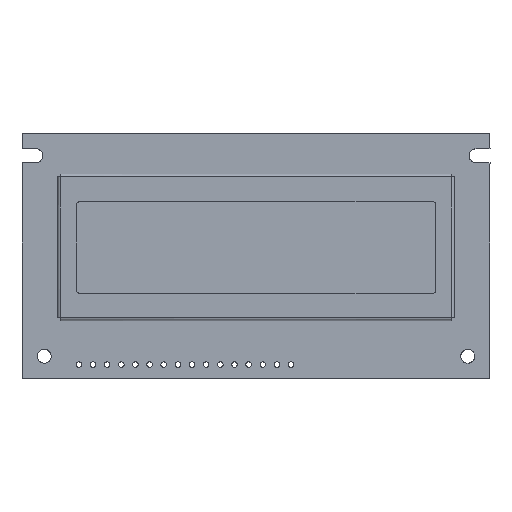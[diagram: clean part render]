
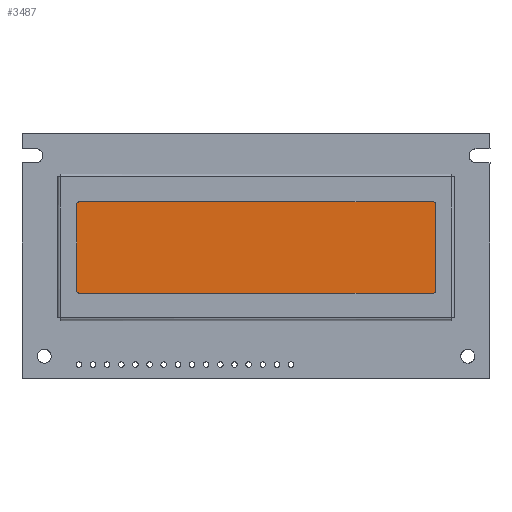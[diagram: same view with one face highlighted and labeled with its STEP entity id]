
A CAD part, top view. The second image highlights one B-rep face of the part: STEP entity #3487.
In plain terms, the highlighted free-form (B-spline) face has degree [1, 1] with [2, 2] control points.
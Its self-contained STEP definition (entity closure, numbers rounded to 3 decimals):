
#34 = CARTESIAN_POINT ( 'NONE',  ( 74.307, 15.533, 9.7 ) ) ;
#36 = CARTESIAN_POINT ( 'NONE',  ( 10.3, 31.7, 9.7 ) ) ;
#86 = EDGE_CURVE ( 'NONE', #3387, #3844, #1446, .T. ) ;
#240 = VERTEX_POINT ( 'NONE', #2118 ) ;
#281 = ORIENTED_EDGE ( 'NONE', *, *, #2906, .F. ) ;
#341 = CARTESIAN_POINT ( 'NONE',  ( 8.51, 32.028, 9.7 ) ) ;
#365 = CARTESIAN_POINT ( 'NONE',  ( 74.093, 31.7, 9.7 ) ) ;
#368 = CARTESIAN_POINT ( 'NONE',  ( 9.8, 31.493, 9.7 ) ) ;
#373 = CARTESIAN_POINT ( 'NONE',  ( 10.007, 15.3, 9.7 ) ) ;
#405 = CARTESIAN_POINT ( 'NONE',  ( 10.3, 15.3, 9.7 ) ) ;
#478 = EDGE_CURVE ( 'NONE', #1723, #2800, #3732, .T. ) ;
#484 = CARTESIAN_POINT ( 'NONE',  ( 74.3, 31.493, 9.7 ) ) ;
#487 = CARTESIAN_POINT ( 'NONE',  ( 9.8, 15.8, 9.7 ) ) ;
#580 = EDGE_CURVE ( 'NONE', #240, #1723, #1768, .T. ) ;
#584 = CARTESIAN_POINT ( 'NONE',  ( 10.3, 15.3, 9.7 ) ) ;
#666 = CARTESIAN_POINT ( 'NONE',  ( 75.59, 14.972, 9.7 ) ) ;
#724 = CARTESIAN_POINT ( 'NONE',  ( 74.3, 31.2, 9.7 ) ) ;
#744 = CARTESIAN_POINT ( 'NONE',  ( 9.8, 31.2, 9.7 ) ) ;
#782 = VERTEX_POINT ( 'NONE', #3363 ) ;
#960 = CARTESIAN_POINT ( 'NONE',  ( 74.3, 31.2, 9.7 ) ) ;
#973 = EDGE_LOOP ( 'NONE', ( #3450, #2985, #2561, #2103, #2629, #3196, #2491, #281 ) ) ;
#1013 = VERTEX_POINT ( 'NONE', #1773 ) ;
#1106 = CARTESIAN_POINT ( 'NONE',  ( 74.3, 15.8, 9.7 ) ) ;
#1223 = CARTESIAN_POINT ( 'NONE',  ( 8.51, 14.972, 9.7 ) ) ;
#1254 = CARTESIAN_POINT ( 'NONE',  ( 9.8, 15.507, 9.7 ) ) ;
#1288 = CARTESIAN_POINT ( 'NONE',  ( 74.3, 31.2, 9.7 ) ) ;
#1446 =( BOUNDED_CURVE ( )  B_SPLINE_CURVE ( 3, ( #584, #373, #1254, #2213 ),
 .UNSPECIFIED., .F., .F. ) 
 B_SPLINE_CURVE_WITH_KNOTS ( ( 4, 4 ),
 ( 0., 1.571 ),
 .UNSPECIFIED. ) 
 CURVE ( )  GEOMETRIC_REPRESENTATION_ITEM ( )  RATIONAL_B_SPLINE_CURVE ( ( 1., 0.805, 0.805, 1. ) ) 
 REPRESENTATION_ITEM ( '' )  );
#1452 = EDGE_CURVE ( 'NONE', #3387, #240, #1654, .T. ) ;
#1530 =( BOUNDED_CURVE ( )  B_SPLINE_CURVE ( 3, ( #2019, #365, #484, #724 ),
 .UNSPECIFIED., .F., .F. ) 
 B_SPLINE_CURVE_WITH_KNOTS ( ( 4, 4 ),
 ( 0., 1.571 ),
 .UNSPECIFIED. ) 
 CURVE ( )  GEOMETRIC_REPRESENTATION_ITEM ( )  RATIONAL_B_SPLINE_CURVE ( ( 1., 0.805, 0.805, 1. ) ) 
 REPRESENTATION_ITEM ( '' )  );
#1654 = B_SPLINE_CURVE_WITH_KNOTS ( 'NONE', 1,
 ( #405, #1742 ),
 .UNSPECIFIED., .F., .F.,
 ( 2, 2 ),
 ( 0., 1. ),
 .UNSPECIFIED. ) ;
#1723 = VERTEX_POINT ( 'NONE', #1106 ) ;
#1741 = B_SPLINE_CURVE_WITH_KNOTS ( 'NONE', 1,
 ( #2336, #2743 ),
 .UNSPECIFIED., .F., .F.,
 ( 2, 2 ),
 ( 0., 1. ),
 .UNSPECIFIED. ) ;
#1742 = CARTESIAN_POINT ( 'NONE',  ( 73.8, 15.3, 9.7 ) ) ;
#1767 = CARTESIAN_POINT ( 'NONE',  ( 73.8, 31.7, 9.7 ) ) ;
#1768 = B_SPLINE_CURVE_WITH_KNOTS ( 'NONE', 3,
 ( #3449, #4254, #34, #2358 ),
 .UNSPECIFIED., .F., .F.,
 ( 4, 4 ),
 ( 0., 1.571 ),
 .UNSPECIFIED. ) ;
#1773 = CARTESIAN_POINT ( 'NONE',  ( 9.8, 31.2, 9.7 ) ) ;
#2019 = CARTESIAN_POINT ( 'NONE',  ( 73.8, 31.7, 9.7 ) ) ;
#2036 = CARTESIAN_POINT ( 'NONE',  ( 10.007, 31.7, 9.7 ) ) ;
#2103 = ORIENTED_EDGE ( 'NONE', *, *, #580, .T. ) ;
#2118 = CARTESIAN_POINT ( 'NONE',  ( 73.8, 15.3, 9.7 ) ) ;
#2213 = CARTESIAN_POINT ( 'NONE',  ( 9.8, 15.8, 9.7 ) ) ;
#2224 = CARTESIAN_POINT ( 'NONE',  ( 10.3, 15.3, 9.7 ) ) ;
#2277 = EDGE_CURVE ( 'NONE', #2420, #2800, #1530, .T. ) ;
#2332 =( BOUNDED_CURVE ( )  B_SPLINE_CURVE ( 3, ( #3657, #368, #2036, #36 ),
 .UNSPECIFIED., .F., .T. ) 
 B_SPLINE_CURVE_WITH_KNOTS ( ( 4, 4 ),
 ( 0., 1.571 ),
 .UNSPECIFIED. ) 
 CURVE ( )  GEOMETRIC_REPRESENTATION_ITEM ( )  RATIONAL_B_SPLINE_CURVE ( ( 1., 0.805, 0.805, 1. ) ) 
 REPRESENTATION_ITEM ( '' )  );
#2336 = CARTESIAN_POINT ( 'NONE',  ( 73.8, 31.7, 9.7 ) ) ;
#2358 = CARTESIAN_POINT ( 'NONE',  ( 74.3, 15.8, 9.7 ) ) ;
#2420 = VERTEX_POINT ( 'NONE', #1767 ) ;
#2491 = ORIENTED_EDGE ( 'NONE', *, *, #4118, .T. ) ;
#2561 = ORIENTED_EDGE ( 'NONE', *, *, #1452, .T. ) ;
#2629 = ORIENTED_EDGE ( 'NONE', *, *, #478, .T. ) ;
#2743 = CARTESIAN_POINT ( 'NONE',  ( 10.3, 31.7, 9.7 ) ) ;
#2800 = VERTEX_POINT ( 'NONE', #1288 ) ;
#2906 = EDGE_CURVE ( 'NONE', #1013, #782, #2332, .T. ) ;
#2985 = ORIENTED_EDGE ( 'NONE', *, *, #86, .F. ) ;
#3128 = CARTESIAN_POINT ( 'NONE',  ( 9.8, 15.8, 9.7 ) ) ;
#3196 = ORIENTED_EDGE ( 'NONE', *, *, #2277, .F. ) ;
#3363 = CARTESIAN_POINT ( 'NONE',  ( 10.3, 31.7, 9.7 ) ) ;
#3387 = VERTEX_POINT ( 'NONE', #2224 ) ;
#3449 = CARTESIAN_POINT ( 'NONE',  ( 73.8, 15.3, 9.7 ) ) ;
#3450 = ORIENTED_EDGE ( 'NONE', *, *, #3658, .T. ) ;
#3483 = B_SPLINE_CURVE_WITH_KNOTS ( 'NONE', 1,
 ( #744, #487 ),
 .UNSPECIFIED., .F., .F.,
 ( 2, 2 ),
 ( 0., 1. ),
 .UNSPECIFIED. ) ;
#3487 = ADVANCED_FACE ( 'NONE', ( #3909 ), #3870, .T. ) ;
#3657 = CARTESIAN_POINT ( 'NONE',  ( 9.8, 31.2, 9.7 ) ) ;
#3658 = EDGE_CURVE ( 'NONE', #1013, #3844, #3483, .T. ) ;
#3660 = CARTESIAN_POINT ( 'NONE',  ( 75.59, 32.028, 9.7 ) ) ;
#3732 = B_SPLINE_CURVE_WITH_KNOTS ( 'NONE', 1,
 ( #4273, #960 ),
 .UNSPECIFIED., .F., .F.,
 ( 2, 2 ),
 ( 0., 1. ),
 .UNSPECIFIED. ) ;
#3844 = VERTEX_POINT ( 'NONE', #3128 ) ;
#3870 = B_SPLINE_SURFACE_WITH_KNOTS ( 'NONE', 1, 1, ( 
 ( #1223, #341 ),
 ( #666, #3660 ) ),
 .UNSPECIFIED., .F., .F., .F.,
 ( 2, 2 ),
 ( 2, 2 ),
 ( 8.51, 75.59 ),
 ( 14.972, 32.028 ),
 .UNSPECIFIED. ) ;
#3909 = FACE_OUTER_BOUND ( 'NONE', #973, .T. ) ;
#4118 = EDGE_CURVE ( 'NONE', #2420, #782, #1741, .T. ) ;
#4254 = CARTESIAN_POINT ( 'NONE',  ( 74.067, 15.293, 9.7 ) ) ;
#4273 = CARTESIAN_POINT ( 'NONE',  ( 74.3, 15.8, 9.7 ) ) ;
